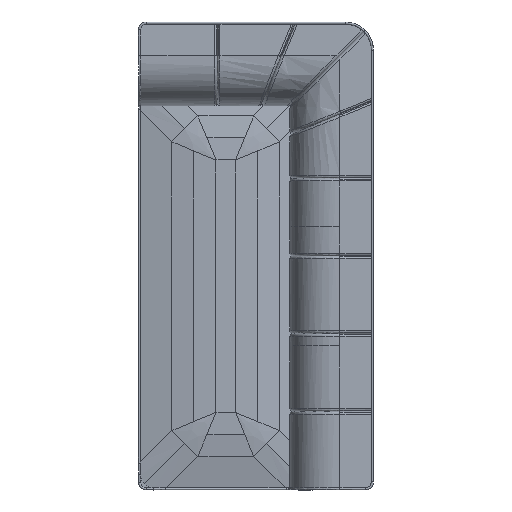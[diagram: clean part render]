
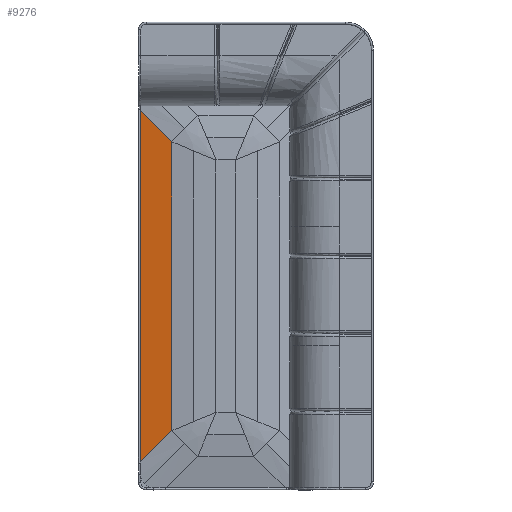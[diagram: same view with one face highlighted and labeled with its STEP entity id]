
A CAD part, top view. The second image highlights one B-rep face of the part: STEP entity #9276.
In plain terms, the highlighted planar face has unit normal (-0.191, 0, 0.982).
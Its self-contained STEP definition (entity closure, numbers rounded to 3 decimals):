
#171 = DIRECTION ( 'NONE',  ( -0.7, -0.7, -0.137 ) ) ;
#363 = EDGE_CURVE ( 'NONE', #11479, #11709, #4024, .T. ) ;
#399 = VECTOR ( 'NONE', #13092, 1000. ) ;
#564 = FACE_OUTER_BOUND ( 'NONE', #14326, .T. ) ;
#2313 = VECTOR ( 'NONE', #15746, 1000. ) ;
#3123 = EDGE_CURVE ( 'NONE', #4940, #7110, #16097, .T. ) ;
#3250 = ORIENTED_EDGE ( 'NONE', *, *, #16328, .F. ) ;
#3920 = CARTESIAN_POINT ( 'NONE',  ( -730.442, -14994.745, 400.664 ) ) ;
#3976 = CARTESIAN_POINT ( 'NONE',  ( -742.096, -14176.602, 398.391 ) ) ;
#4024 = LINE ( 'NONE', #11903, #399 ) ;
#4756 = AXIS2_PLACEMENT_3D ( 'NONE', #9636, #5729, #15924 ) ;
#4858 = ORIENTED_EDGE ( 'NONE', *, *, #3123, .F. ) ;
#4940 = VERTEX_POINT ( 'NONE', #14654 ) ;
#5076 = CARTESIAN_POINT ( 'NONE',  ( -976.074, -13942.624, 352.766 ) ) ;
#5397 = LINE ( 'NONE', #3976, #2313 ) ;
#5729 = DIRECTION ( 'NONE',  ( -0.191, 0., 0.982 ) ) ;
#7110 = VERTEX_POINT ( 'NONE', #11812 ) ;
#7517 = EDGE_CURVE ( 'NONE', #11479, #4940, #5397, .T. ) ;
#7848 = VECTOR ( 'NONE', #171, 1000. ) ;
#8293 = DIRECTION ( 'NONE',  ( 0., -1., 0. ) ) ;
#9069 = ORIENTED_EDGE ( 'NONE', *, *, #7517, .F. ) ;
#9276 = ADVANCED_FACE ( 'NONE', ( #564 ), #13297, .T. ) ;
#9636 = CARTESIAN_POINT ( 'NONE',  ( -880., -14296.5, 371.5 ) ) ;
#9796 = CARTESIAN_POINT ( 'NONE',  ( -976.074, -15240.376, 352.766 ) ) ;
#11479 = VERTEX_POINT ( 'NONE', #5076 ) ;
#11709 = VERTEX_POINT ( 'NONE', #9796 ) ;
#11812 = CARTESIAN_POINT ( 'NONE',  ( -860.584, -15124.886, 375.286 ) ) ;
#11903 = CARTESIAN_POINT ( 'NONE',  ( -976.074, -15244.302, 352.766 ) ) ;
#12752 = ORIENTED_EDGE ( 'NONE', *, *, #363, .T. ) ;
#13080 = CARTESIAN_POINT ( 'NONE',  ( -860.584, -14763.25, 375.286 ) ) ;
#13092 = DIRECTION ( 'NONE',  ( 0., -1., 0. ) ) ;
#13297 = PLANE ( 'NONE',  #4756 ) ;
#13577 = VECTOR ( 'NONE', #8293, 1000. ) ;
#14326 = EDGE_LOOP ( 'NONE', ( #12752, #3250, #4858, #9069 ) ) ;
#14654 = CARTESIAN_POINT ( 'NONE',  ( -860.584, -14058.114, 375.286 ) ) ;
#15746 = DIRECTION ( 'NONE',  ( 0.7, -0.7, 0.137 ) ) ;
#15924 = DIRECTION ( 'NONE',  ( 0., 1., 0. ) ) ;
#16097 = LINE ( 'NONE', #13080, #13577 ) ;
#16328 = EDGE_CURVE ( 'NONE', #7110, #11709, #16729, .T. ) ;
#16729 = LINE ( 'NONE', #3920, #7848 ) ;
